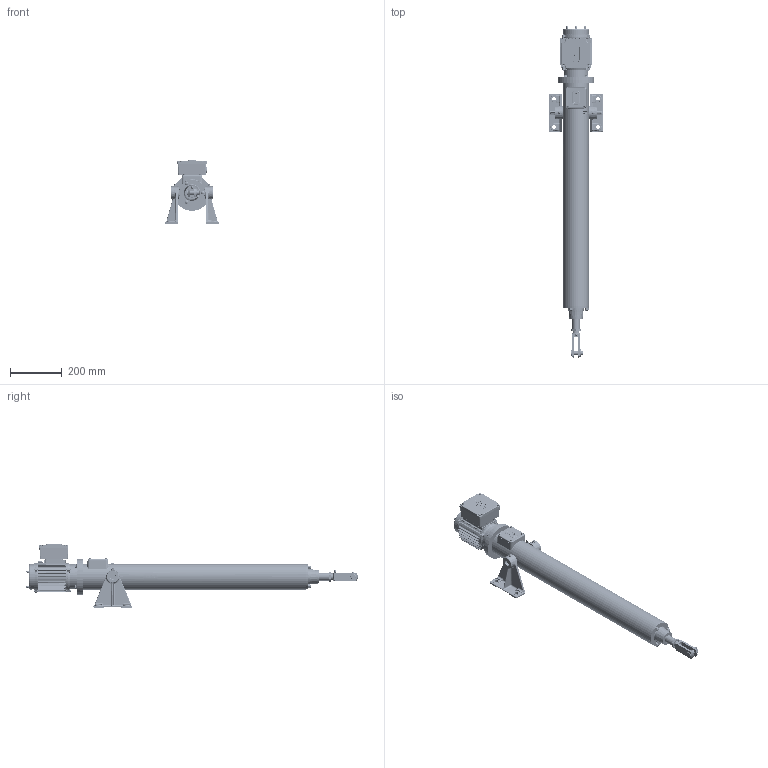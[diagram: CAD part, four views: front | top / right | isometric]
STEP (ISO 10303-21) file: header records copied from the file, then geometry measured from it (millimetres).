
FILE_DESCRIPTION( ( '153-599-4' ), '1' );
FILE_NAME( 'C:/daten/bearbeitung katalogbilder/RBs rendern/austausch pomplun/mit identnr/T1A4-0600-160-183-0.stp', 'Unknown', ( 'Christoph Hahmann' ), ( 'RACO-ELEKTRO-MASCHINEN GmbH' ), 'PSStep 17.0.49', 'Solid Edge ST 7', ' ' );
FILE_SCHEMA( ( 'AUTOMOTIVE_DESIGN { 1 0 10303 214 1 1 1 1 }' ) );
Length unit declared in the file: millimetre
Products named in the file (10): Assem1; 03.01-04 kpl; 02.14-04-0600; 02.01-04 kpl; 01.15-04-0600; 01.01-04 kpl Gabelkopf; 04.01-04-100-107-8; 04.40-140-100-016-0; 03.65-04-105-052-4-2 Füße; BGR 4
Assembly tree (9 placements, depth 2):
  Assem1
    03.01-04 kpl
    02.14-04-0600
    02.01-04 kpl
    01.15-04-0600
    01.01-04 kpl Gabelkopf
    04.01-04-100-107-8
    04.40-140-100-016-0
    03.65-04-105-052-4-2 Füße
    BGR 4
Bounding box: 209 x 1284.98 x 245.1 mm (x, y, z)
Surface area: 1021532.9 mm2 (no closed solid volume)
Topology: 0 solids, 5702 shells, 5702 faces, 29955 edges, 29291 vertices
Faces by surface type: plane 2982, cylinder 1430, bspline 409, cone 310, torus 273, extrusion 161, sphere 137
Full cylindrical faces by diameter (mm): 1.6 x2, 2 x1, 2.459 x12, 3 x8, 3.141 x6, 3.242 x22, 3.5 x1, 4 x15, 4.02 x5, 4.134 x18, 4.72 x4, 4.8 x9, 4.917 x2, 5 x16, 5.1 x1, 5.3 x5, 5.4 x5, 5.5 x8, 5.7 x7, 6.47 x4, 6.647 x3, 6.917 x2, 7 x6, 7.33 x1, 7.5 x3, 8 x12, 8.4 x4, 8.5 x3, 8.9 x4, 9 x4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
Entity records: 419641 total; most frequent: CARTESIAN_POINT 156062, DIRECTION 46657, VERTEX_POINT 29022, ORIENTED_EDGE 28986, EDGE_CURVE 28986, AXIS2_PLACEMENT_3D 15805, VECTOR 15047, LINE 14886
